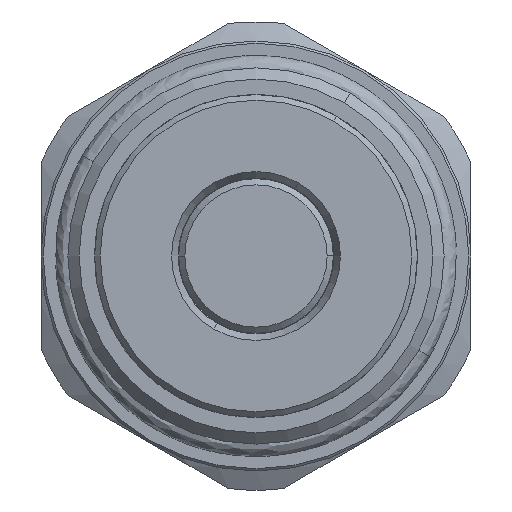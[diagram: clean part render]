
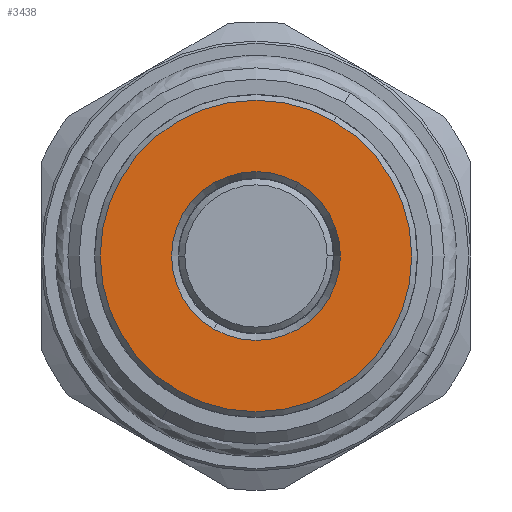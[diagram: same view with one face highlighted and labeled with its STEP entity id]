
A CAD part, left-side view. The second image highlights one B-rep face of the part: STEP entity #3438.
In plain terms, the highlighted planar face has unit normal (-1, 0, 0).
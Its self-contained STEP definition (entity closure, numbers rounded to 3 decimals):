
#352 = CARTESIAN_POINT ( 'NONE',  ( -47.7, 6.9, -11.951 ) ) ;
#353 = CARTESIAN_POINT ( 'NONE',  ( -47.7, -6.9, 11.951 ) ) ;
#356 = CARTESIAN_POINT ( 'NONE',  ( -47.7, -3.739, 6.476 ) ) ;
#483 = CARTESIAN_POINT ( 'NONE',  ( -47.7, 0., 0. ) ) ;
#513 = EDGE_CURVE ( 'NONE', #1490, #1489, #1683, .T. ) ;
#580 = AXIS2_PLACEMENT_3D ( 'NONE', #483, #3237, #3238 ) ;
#587 = EDGE_CURVE ( 'NONE', #1493, #1494, #1924, .T. ) ;
#602 = EDGE_CURVE ( 'NONE', #1494, #1493, #2053, .T. ) ;
#633 = EDGE_CURVE ( 'NONE', #1489, #1490, #2062, .T. ) ;
#965 = CARTESIAN_POINT ( 'NONE',  ( -47.7, 0., 0. ) ) ;
#996 = DIRECTION ( 'NONE',  ( 1., 0., 0. ) ) ;
#998 = DIRECTION ( 'NONE',  ( 0., -0.5, 0.866 ) ) ;
#1133 = CARTESIAN_POINT ( 'NONE',  ( -47.7, 0., 0. ) ) ;
#1193 = DIRECTION ( 'NONE',  ( 1., 0., 0. ) ) ;
#1195 = DIRECTION ( 'NONE',  ( 0., -0.5, 0.866 ) ) ;
#1365 = CARTESIAN_POINT ( 'NONE',  ( -47.7, 0., 0. ) ) ;
#1372 = DIRECTION ( 'NONE',  ( -1., 0., 0. ) ) ;
#1373 = DIRECTION ( 'NONE',  ( 0., 0.5, -0.866 ) ) ;
#1489 = VERTEX_POINT ( 'NONE', #352 ) ;
#1490 = VERTEX_POINT ( 'NONE', #353 ) ;
#1493 = VERTEX_POINT ( 'NONE', #356 ) ;
#1494 = VERTEX_POINT ( 'NONE', #2137 ) ;
#1683 = CIRCLE ( 'NONE', #580, 13.8 ) ;
#1924 = CIRCLE ( 'NONE', #2958, 7.477 ) ;
#2053 = CIRCLE ( 'NONE', #2978, 7.477 ) ;
#2062 = CIRCLE ( 'NONE', #2835, 13.8 ) ;
#2137 = CARTESIAN_POINT ( 'NONE',  ( -47.7, 3.739, -6.476 ) ) ;
#2476 = FACE_OUTER_BOUND ( 'NONE', #3482, .T. ) ;
#2727 = FACE_BOUND ( 'NONE', #3483, .T. ) ;
#2835 = AXIS2_PLACEMENT_3D ( 'NONE', #1365, #1372, #1373 ) ;
#2851 = AXIS2_PLACEMENT_3D ( 'NONE', #3046, #3049, #3050 ) ;
#2958 = AXIS2_PLACEMENT_3D ( 'NONE', #965, #996, #998 ) ;
#2978 = AXIS2_PLACEMENT_3D ( 'NONE', #1133, #1193, #1195 ) ;
#3046 = CARTESIAN_POINT ( 'NONE',  ( -47.7, 0., 0. ) ) ;
#3047 = PLANE ( 'NONE',  #2851 ) ;
#3049 = DIRECTION ( 'NONE',  ( -1., 0., 0. ) ) ;
#3050 = DIRECTION ( 'NONE',  ( 0., 0.5, -0.866 ) ) ;
#3237 = DIRECTION ( 'NONE',  ( -1., 0., 0. ) ) ;
#3238 = DIRECTION ( 'NONE',  ( 0., 0.5, -0.866 ) ) ;
#3438 = ADVANCED_FACE ( 'NONE', ( #2476, #2727 ), #3047, .T. ) ;
#3482 = EDGE_LOOP ( 'NONE', ( #3548, #3514 ) ) ;
#3483 = EDGE_LOOP ( 'NONE', ( #3567, #3545 ) ) ;
#3514 = ORIENTED_EDGE ( 'NONE', *, *, #633, .T. ) ;
#3545 = ORIENTED_EDGE ( 'NONE', *, *, #587, .T. ) ;
#3548 = ORIENTED_EDGE ( 'NONE', *, *, #513, .T. ) ;
#3567 = ORIENTED_EDGE ( 'NONE', *, *, #602, .T. ) ;
